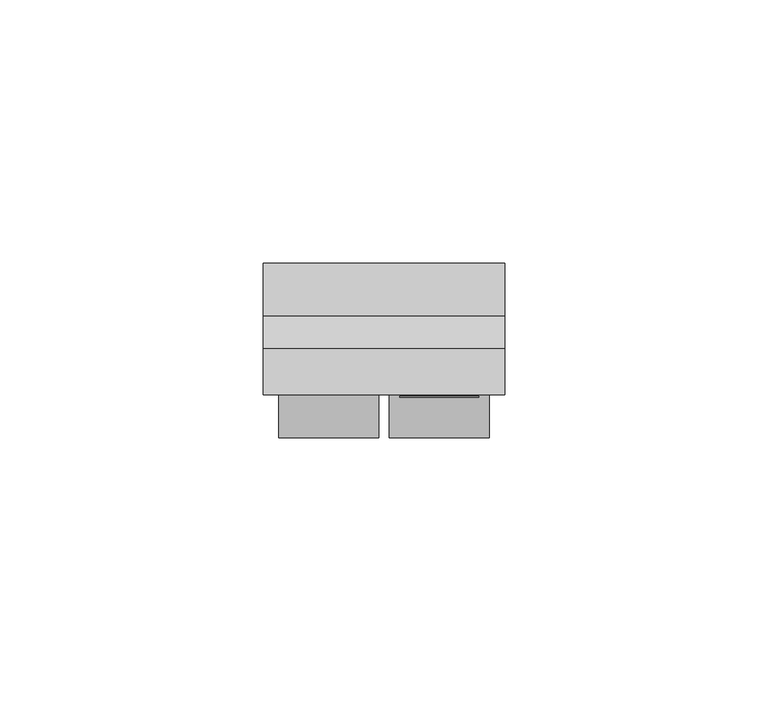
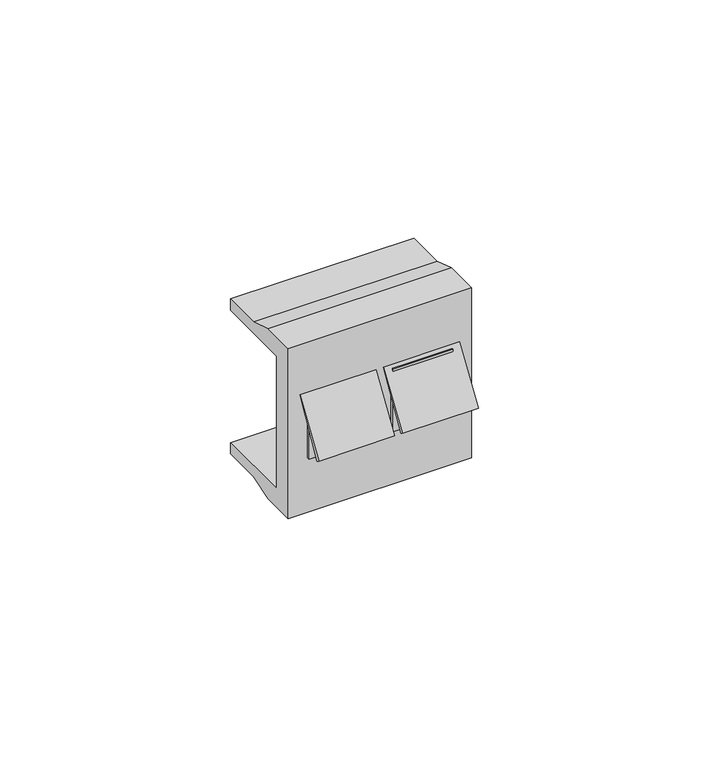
"""IFC4 building model written with IfcOpenShell, lengths in millimetres: proxy geometry, КНС_КомпьютерныеРозеткиRJ45_DKC : Белый."""

from ifc_helpers import new_model, si_unit, frame, origin, place, context, project, spatial, polyline, outline, extrude, faceted_brep, source, transform, mapped, element, save


def electrical_fixtures_3449c2f8(model_context):
    return source(origin(), model_context, "Body", "SolidModel", [
        faceted_brep([(17.976911, -25.5, 8.25), (2.976911, -25.5, 8.25), (2.976911, -25.5, -8.25), (17.976911, -25.5, -8.25), (8.8854583, -25.5, 6.436967), (11.0010209, -25.5, 6.436967), (12.2450646, -25.5, 5.1929232), (12.2450646, -25.5, -5.1929232), (11.0010209, -25.5, -6.436967), (8.8854583, -25.5, -6.436967), (17.976911, -16.2913439, 8.25), (17.976911, -16.2913439, -8.25), (2.976911, -16.2913439, -8.25), (2.976911, -16.2913439, 8.25), (11.0010209, -20.0, 6.436967), (8.8854583, -20.0, 6.436967), (8.8854583, -20.0, -6.436967), (11.0010209, -20.0, -6.436967), (12.2450646, -20.0, -5.1929232), (12.2450646, -20.0, 5.1929232)], [[[0, 1, 2, 3], [4, 5, 6, 7, 8, 9]], [[10, 11, 12, 13]], [[1, 0, 10, 13]], [[2, 1, 13, 12]], [[3, 2, 12, 11]], [[0, 3, 11, 10]], [[14, 15, 16, 17, 18, 19]], [[15, 14, 5, 4]], [[16, 15, 4, 9]], [[17, 16, 9, 8]], [[18, 17, 8, 7]], [[19, 18, 7, 6]], [[14, 19, 6, 5]]]),
        extrude(outline(polyline([(-32.5, -3.7403811), (-33.1818268, -3.3467281), (-25.0, 9.25), (-32.5, -3.7403811)])), frame((0.953822, 0.0, 0.0), z_axis=(1.0, 0.0, 0.0), x_axis=(0.0, 1.0, 0.0)), (0.0, 0.0, 1.0), 19.046178),
        extrude(outline(polyline([(-32.5, -3.7403811), (-33.1818268, -3.3467281), (-25.0, 9.25), (-32.5, -3.7403811)])), frame((-20.0, 0.0, 0.0), z_axis=(1.0, 0.0, 0.0), x_axis=(0.0, 1.0, 0.0)), (0.0, 0.0, 1.0), 19.0),
        faceted_brep([(-3.023089, -25.5, 8.25), (-17.976911, -25.5, 8.25), (-17.976911, -25.5, -8.25), (-3.023089, -25.5, -8.25), (-12.0683637, -25.5, 6.436967), (-9.9989791, -25.5, 6.436967), (-8.7549354, -25.5, 5.1929232), (-8.7549354, -25.5, -5.1929232), (-9.9989791, -25.5, -6.436967), (-12.0683637, -25.5, -6.436967), (-3.023089, -16.2913439, 8.25), (-3.023089, -16.2913439, -8.25), (-17.976911, -16.2913439, -8.25), (-17.976911, -16.2913439, 8.25), (-9.9989791, -20.0, 6.436967), (-12.0683637, -20.0, 6.436967), (-12.0683637, -20.0, -6.436967), (-9.9989791, -20.0, -6.436967), (-8.7549354, -20.0, -5.1929232), (-8.7549354, -20.0, 5.1929232)], [[[0, 1, 2, 3], [4, 5, 6, 7, 8, 9]], [[10, 11, 12, 13]], [[1, 0, 10, 13]], [[2, 1, 13, 12]], [[3, 2, 12, 11]], [[0, 3, 11, 10]], [[14, 15, 16, 17, 18, 19]], [[15, 14, 5, 4]], [[16, 15, 4, 9]], [[17, 16, 9, 8]], [[18, 17, 8, 7]], [[19, 18, 7, 6]], [[14, 19, 6, 5]]]),
        faceted_brep([(23.0, -25.0, 22.5), (-23.0, -25.0, 22.5), (-23.0, -25.0, -22.5), (23.0, -25.0, -22.5), (8.8854583, -25.0, 6.436967), (11.0010209, -25.0, 6.436967), (12.2450646, -25.0, 5.1929232), (12.2450646, -25.0, -5.1929232), (11.0010209, -25.0, -6.436967), (8.8854583, -25.0, -6.436967), (-12.0683637, -25.0, 6.436967), (-9.9989791, -25.0, 6.436967), (-8.7549354, -25.0, 5.1929232), (-8.7549354, -25.0, -5.1929232), (-9.9989791, -25.0, -6.436967), (-12.0683637, -25.0, -6.436967), (23.0, 0.0, 20.5), (23.0, 0.0, 17.5), (-23.0, 0.0, 17.5), (-23.0, 0.0, 20.5), (23.0, 0.0, -17.5), (23.0, 0.0, -20.5), (-23.0, 0.0, -20.5), (-23.0, 0.0, -17.5), (23.0, -16.2913439, 22.5), (-23.0, -16.2913439, 22.5), (-23.0, -10.0, 20.5), (-23.0, -20.0, 17.5), (-23.0, -20.0, -17.5), (-23.0, -10.0, -20.5), (-23.0, -16.2913439, -22.5), (23.0, -16.2913439, -22.5), (23.0, -10.0, -20.5), (23.0, -20.0, -17.5), (23.0, -20.0, 17.5), (23.0, -10.0, 20.5), (11.0010209, -20.0, 6.436967), (8.8854583, -20.0, 6.436967), (8.8854583, -20.0, -6.436967), (11.0010209, -20.0, -6.436967), (12.2450646, -20.0, -5.1929232), (12.2450646, -20.0, 5.1929232), (-9.9989791, -20.0, 6.436967), (-12.0683637, -20.0, 6.436967), (-12.0683637, -20.0, -6.436967), (-9.9989791, -20.0, -6.436967), (-8.7549354, -20.0, -5.1929232), (-8.7549354, -20.0, 5.1929232)], [[[0, 1, 2, 3], [4, 5, 6, 7, 8, 9], [10, 11, 12, 13, 14, 15]], [[16, 17, 18, 19]], [[20, 21, 22, 23]], [[1, 0, 24, 25]], [[2, 1, 25, 26, 19, 18, 27, 28, 23, 22, 29, 30]], [[3, 2, 30, 31]], [[0, 3, 31, 32, 21, 20, 33, 34, 17, 16, 35, 24]], [[28, 33, 20, 23]], [[34, 27, 18, 17]], [[33, 28, 27, 34], [36, 37, 38, 39, 40, 41], [42, 43, 44, 45, 46, 47]], [[26, 35, 16, 19]], [[35, 26, 25, 24]], [[32, 29, 22, 21]], [[29, 32, 31, 30]], [[36, 5, 4, 37]], [[37, 4, 9, 38]], [[38, 9, 8, 39]], [[39, 8, 7, 40]], [[40, 7, 6, 41]], [[5, 36, 41, 6]], [[42, 11, 10, 43]], [[43, 10, 15, 44]], [[44, 15, 14, 45]], [[45, 14, 13, 46]], [[46, 13, 12, 47]], [[11, 42, 47, 12]]]),
    ])


if __name__ == "__main__":
    model = new_model("IFC4")
    model_context = context("Model", 3, world=origin())
    ifc_project = project(units=[si_unit("LENGTHUNIT", "METRE", prefix="MILLI")], contexts=[model_context])
    site = spatial("IfcSite", under=ifc_project)
    building = spatial("IfcBuilding", under=site)
    placement = place(None, origin())
    electrical_fixtures_shape = electrical_fixtures_3449c2f8(model_context)
    element("IfcBuildingElementProxy", 1, Name="КНС_КомпьютерныеРозеткиRJ45_DKC : Белый", ObjectType="КНС_КомпьютерныеРозеткиRJ45_DKC : Белый", at=placement, inside=building, context=model_context, shape_type="MappedRepresentation", body=[
        mapped(electrical_fixtures_shape, transform((0.0, 0.0, 0.0), x_axis=(1.0, 0.0, 0.0), y_axis=(0.0, 1.0, 0.0), z_axis=(0.0, 0.0, 1.0))),
    ])
    save(model, "model.ifc")
